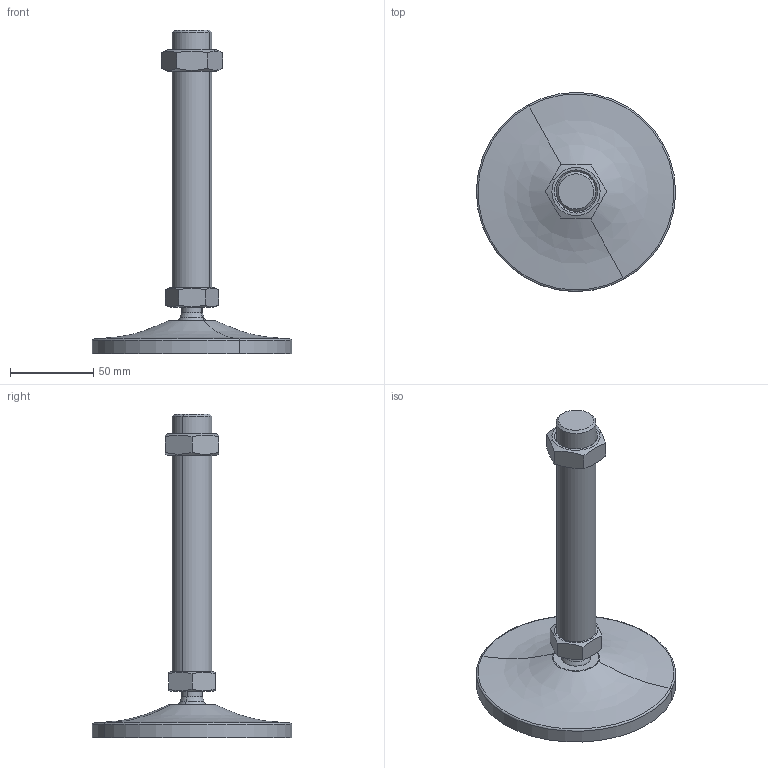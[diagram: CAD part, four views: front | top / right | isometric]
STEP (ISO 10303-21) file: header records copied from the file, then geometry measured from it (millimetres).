
FILE_DESCRIPTION(('CATIA V5 STEP Exchange'),'2;1');
FILE_NAME('C:\Users\ALI OZGUN\Desktop\alhan\saplama2\560122421.stp','2017-09-21T10:36:24+00:00',('none'),('none'),'CATIA Version 5 Release 21 GA (IN-10)','CATIA V5 STEP AP203','none');
FILE_SCHEMA(('CONFIG_CONTROL_DESIGN'));
Length unit declared in the file: millimetre
Products named in the file (1): 560122421
Bounding box: 119.97 x 119.97 x 195 mm (x, y, z)
Volume: 171163.3 mm3; surface area: 46144.9 mm2
Topology: 3 solids, 3 shells, 60 faces, 136 edges, 83 vertices
Faces by surface type: plane 20, cone 16, cylinder 14, torus 4, revolution 4, sphere 2
Entity records: 1857 total; most frequent: CARTESIAN_POINT 615, ORIENTED_EDGE 268, DIRECTION 185, EDGE_CURVE 134, AXIS2_PLACEMENT_3D 99, VERTEX_POINT 83, EDGE_LOOP 67, ADVANCED_FACE 60
